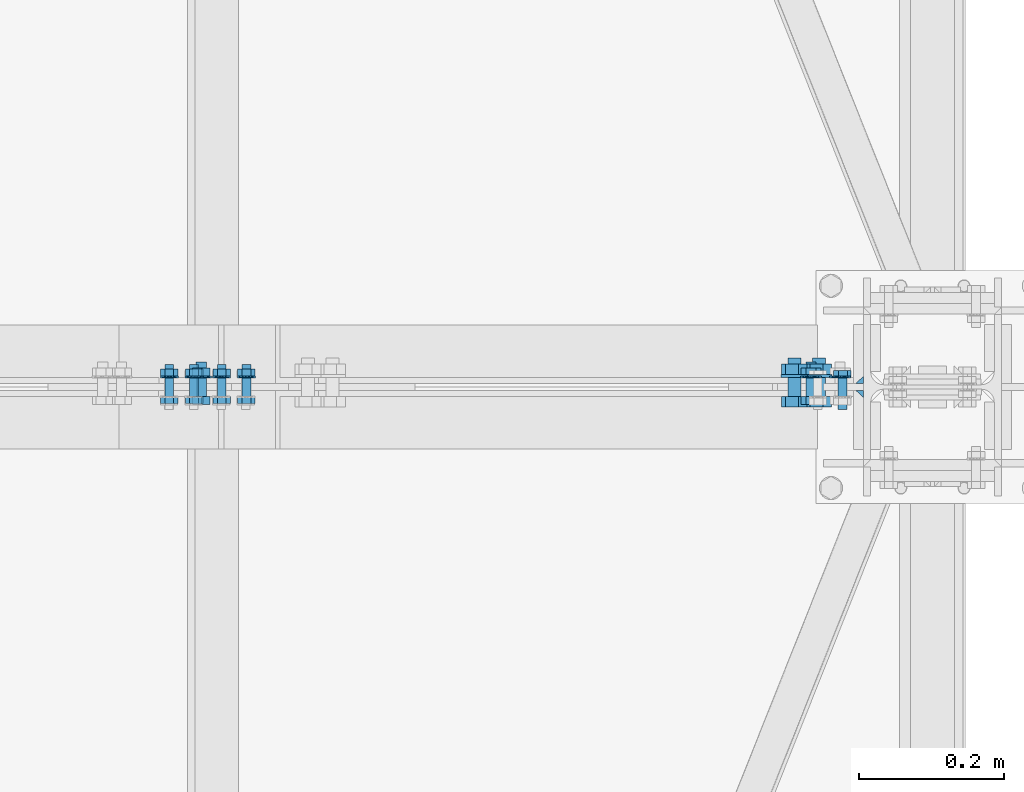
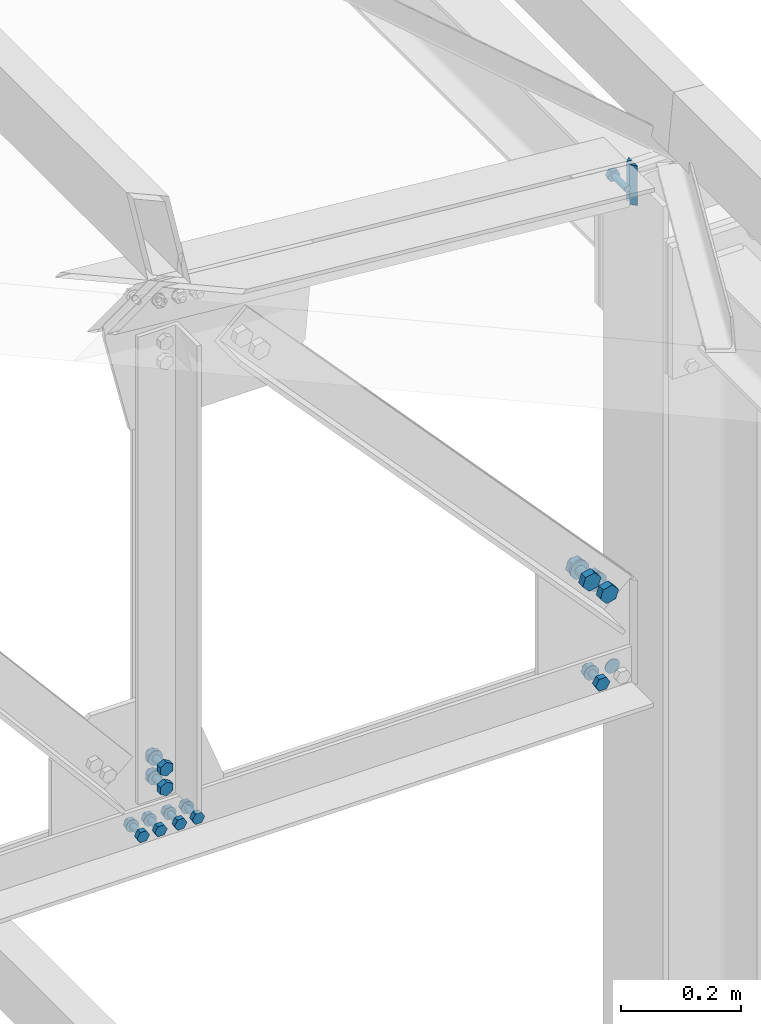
# One storey, part 111 of 251: 39 mechanical fasteners, 2 fasteners.
"""IFC4 building model written with IfcOpenShell, lengths in metres."""

from ifc_helpers import new_model, si_unit, frame, origin_with_axes, place, context, project, spatial, polyline, outline, extrude, type_object, element, save


model = new_model("IFC4")

# Units and contexts
model_context = context("Model", 3, precision=1e-05, world=origin_with_axes())
ifc_project = project(units=[si_unit("LENGTHUNIT", "METRE"), si_unit("AREAUNIT", "SQUARE_METRE"), si_unit("VOLUMEUNIT", "CUBIC_METRE"), si_unit("MASSUNIT", "GRAM", prefix="KILO"), si_unit("TIMEUNIT", "SECOND"), si_unit("PLANEANGLEUNIT", "RADIAN"), si_unit("SOLIDANGLEUNIT", "STERADIAN"), si_unit("THERMODYNAMICTEMPERATUREUNIT", "DEGREE_CELSIUS")], contexts=[model_context])

# Site, building, storey
placement_1 = place(None, origin_with_axes())
site = spatial("IfcSite", under=ifc_project, at=placement_1, Name="Italia", CompositionType="ELEMENT")
building = spatial("IfcBuilding", under=site, at=placement_1, Name="Deposito", CompositionType="ELEMENT")
storey = spatial("IfcBuildingStorey", under=building, at=placement_1, Name="Storey 0", CompositionType="ELEMENT", Elevation=0.0)

# Mechanical fasteners
mechanical_fastener_type_1 = type_object("IfcMechanicalFastenerType", Name="Reticolare 3", PredefinedType="BOLT")
placement_2 = place(placement_1, origin_with_axes())
mechanical_fastener_1_placement = place(placement_2, origin_with_axes())
element("IfcMechanicalFastener", 1, at=mechanical_fastener_1_placement, inside=storey, type_object=mechanical_fastener_type_1, Name="Reticolare 3", NominalDiameter=0.028, context=model_context, shape_type="SweptSolid", body=[
    extrude(outline(polyline([(0.0, 0.0), (-0.000476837, -0.00362349), (-0.00187492, -0.00699997), (-0.0041008, -0.00989962), (-0.00699997, -0.0121245), (-0.010376, -0.0135231), (-0.0139999, -0.0139999), (-0.0176239, -0.0135231), (-0.0209999, -0.0121245), (-0.0238991, -0.00989962), (-0.026125, -0.00699997), (-0.027523, -0.00362349), (-0.0279999, 0.0), (-0.027523, 0.00362349), (-0.026125, 0.00699997), (-0.0238991, 0.00989962), (-0.0209999, 0.0121245), (-0.0176239, 0.0135231), (-0.0139999, 0.0139999), (-0.010376, 0.0135231), (-0.00699997, 0.0121245), (-0.0041008, 0.00989962), (-0.00187492, 0.00699997), (-0.000476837, 0.00362349), (0.0, 0.0)])), frame((19.887, 5.015, 5.009), z_axis=(0.0, -1.0, 0.0), x_axis=(1.0, 0.0, 0.0)), (0.0, 0.0, 1.0), 0.00199986),
])
mechanical_fastener_type_2 = type_object("IfcMechanicalFastenerType", Name="Reticolare 3", PredefinedType="BOLT")
mechanical_fastener_2_placement = place(placement_2, origin_with_axes())
element("IfcMechanicalFastener", 2, at=mechanical_fastener_2_placement, inside=storey, type_object=mechanical_fastener_type_2, Name="Reticolare 3", NominalDiameter=0.0139997, context=model_context, shape_type="SweptSolid", body=[
    extrude(outline(polyline([(0.0, 0.0), (-0.0139999, 0.0), (-0.0209999, 0.0121241), (-0.0139999, 0.0242486), (0.0, 0.0242486), (0.00699997, 0.0121241), (0.0, 0.0)])), frame((19.84, 4.987, 4.99688), z_axis=(0.0, -1.0, 0.0), x_axis=(1.0, 0.0, 0.0)), (0.0, 0.0, 1.0), 0.0112),
])
mechanical_fastener_type_3 = type_object("IfcMechanicalFastenerType", Name="Reticolare 3", PredefinedType="BOLT")
mechanical_fastener_3_placement = place(placement_2, origin_with_axes())
element("IfcMechanicalFastener", 3, at=mechanical_fastener_3_placement, inside=storey, type_object=mechanical_fastener_type_3, Name="Reticolare 3", NominalDiameter=0.014, context=model_context, shape_type="SweptSolid", body=[
    extrude(outline(polyline([(0.0, 0.0), (-0.000238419, -0.0018115), (-0.000938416, -0.00349998), (-0.0020504, -0.00494957), (-0.00349998, -0.00606203), (-0.00518799, -0.00676155), (-0.00699997, -0.00699997), (-0.00881195, -0.00676155), (-0.0105, -0.00606203), (-0.0119495, -0.00494957), (-0.0130615, -0.00349998), (-0.0137615, -0.0018115), (-0.0139999, 0.0), (-0.0137615, 0.0018115), (-0.0130615, 0.00349998), (-0.0119495, 0.00494957), (-0.0105, 0.00606203), (-0.00881195, 0.00676155), (-0.00699997, 0.00699997), (-0.00518799, 0.00676155), (-0.00349998, 0.00606203), (-0.0020504, 0.00494957), (-0.000938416, 0.00349998), (-0.000238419, 0.0018115), (0.0, 0.0)])), frame((19.84, 5.034, 5.009), z_axis=(0.0, -1.0, 0.0), x_axis=(1.0, 0.0, 0.0)), (0.0, 0.0, 1.0), 0.0469999),
])
mechanical_fastener_type_4 = type_object("IfcMechanicalFastenerType", Name="Reticolare 3", PredefinedType="BOLT")
mechanical_fastener_4_placement = place(placement_2, origin_with_axes())
element("IfcMechanicalFastener", 4, at=mechanical_fastener_4_placement, inside=storey, type_object=mechanical_fastener_type_4, Name="Reticolare 3", NominalDiameter=0.0139997, context=model_context, shape_type="SweptSolid", body=[
    extrude(outline(polyline([(0.0, 0.0), (-0.0139999, 0.0), (-0.0209999, 0.0121241), (-0.0139999, 0.0242486), (0.0, 0.0242486), (0.00699997, 0.0121241), (0.0, 0.0)])), frame((19.84, 5.0262, 4.99688), z_axis=(0.0, -1.0, 0.0), x_axis=(1.0, 0.0, 0.0)), (0.0, 0.0, 1.0), 0.0112),
])
mechanical_fastener_type_5 = type_object("IfcMechanicalFastenerType", Name="Reticolare 3", PredefinedType="BOLT")
mechanical_fastener_5_placement = place(placement_2, origin_with_axes())
element("IfcMechanicalFastener", 5, at=mechanical_fastener_5_placement, inside=storey, type_object=mechanical_fastener_type_5, Name="Reticolare 3", NominalDiameter=0.028, context=model_context, shape_type="SweptSolid", body=[
    extrude(outline(polyline([(0.0, 0.0), (-0.000476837, -0.00362349), (-0.00187492, -0.00699997), (-0.0041008, -0.00989962), (-0.00699997, -0.0121245), (-0.010376, -0.0135231), (-0.0139999, -0.0139999), (-0.0176239, -0.0135231), (-0.0209999, -0.0121245), (-0.0238991, -0.00989962), (-0.026125, -0.00699997), (-0.027523, -0.00362349), (-0.0279999, 0.0), (-0.027523, 0.00362349), (-0.026125, 0.00699997), (-0.0238991, 0.00989962), (-0.0209999, 0.0121245), (-0.0176239, 0.0135231), (-0.0139999, 0.0139999), (-0.010376, 0.0135231), (-0.00699997, 0.0121245), (-0.0041008, 0.00989962), (-0.00187492, 0.00699997), (-0.000476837, 0.00362349), (0.0, 0.0)])), frame((19.847, 5.015, 5.009), z_axis=(0.0, -1.0, 0.0), x_axis=(1.0, 0.0, 0.0)), (0.0, 0.0, 1.0), 0.00199986),
])
mechanical_fastener_type_6 = type_object("IfcMechanicalFastenerType", Name="Reticolare 3", PredefinedType="BOLT")
mechanical_fastener_6_placement = place(placement_2, origin_with_axes())
element("IfcMechanicalFastener", 6, at=mechanical_fastener_6_placement, inside=storey, type_object=mechanical_fastener_type_6, Name="Reticolare 3", NominalDiameter=0.0179991, context=model_context, shape_type="SweptSolid", body=[
    extrude(outline(polyline([(0.0, 0.0), (-0.0121613, 0.0132709), (-0.0067482, 0.0304379), (0.0108242, 0.0343337), (0.0229855, 0.0210629), (0.0175724, 0.00389576), (0.0, 0.0)])), frame((19.8385, 4.987, 5.17241), z_axis=(0.0, -1.0, 0.0), x_axis=(1.0, 0.0, 0.0)), (0.0, 0.0, 1.0), 0.0144),
])
mechanical_fastener_type_7 = type_object("IfcMechanicalFastenerType", Name="Reticolare 3", PredefinedType="BOLT")
mechanical_fastener_7_placement = place(placement_2, origin_with_axes())
element("IfcMechanicalFastener", 7, at=mechanical_fastener_7_placement, inside=storey, type_object=mechanical_fastener_type_7, Name="Reticolare 3", NominalDiameter=0.018, context=model_context, shape_type="SweptSolid", body=[
    extrude(outline(polyline([(0.0, 0.0), (-0.000307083, -0.00232935), (-0.00120735, -0.00449991), (-0.00263596, -0.00636387), (-0.00450134, -0.00779438), (-0.00667191, -0.00869322), (-0.00900078, -0.00899982), (-0.0113297, -0.00869322), (-0.0135002, -0.00779438), (-0.0153656, -0.00636387), (-0.0167942, -0.00449991), (-0.0176945, -0.00232935), (-0.0180016, 0.0), (-0.0176945, 0.00232935), (-0.0167942, 0.00449991), (-0.0153656, 0.00636387), (-0.0135002, 0.00779438), (-0.0113297, 0.00869322), (-0.00900078, 0.00899982), (-0.00667191, 0.00869322), (-0.00450134, 0.00779438), (-0.00263596, 0.00636387), (-0.00120735, 0.00449991), (-0.000307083, 0.00232935), (0.0, 0.0)])), frame((19.8529, 5.04, 5.18958), z_axis=(0.0, -1.0, 0.0), x_axis=(1.0, 0.0, 0.0)), (0.0, 0.0, 1.0), 0.053),
])
mechanical_fastener_type_8 = type_object("IfcMechanicalFastenerType", Name="Reticolare 3", PredefinedType="BOLT")
mechanical_fastener_8_placement = place(placement_2, origin_with_axes())
element("IfcMechanicalFastener", 8, at=mechanical_fastener_8_placement, inside=storey, type_object=mechanical_fastener_type_8, Name="Reticolare 3", NominalDiameter=0.0179991, context=model_context, shape_type="SweptSolid", body=[
    extrude(outline(polyline([(0.0, 0.0), (-0.0121613, 0.0132709), (-0.0067482, 0.0304379), (0.0108242, 0.0343337), (0.0229855, 0.0210629), (0.0175724, 0.00389576), (0.0, 0.0)])), frame((19.8385, 5.0314, 5.17241), z_axis=(0.0, -1.0, 0.0), x_axis=(1.0, 0.0, 0.0)), (0.0, 0.0, 1.0), 0.0144),
])
mechanical_fastener_type_9 = type_object("IfcMechanicalFastenerType", Name="Reticolare 3", PredefinedType="BOLT")
mechanical_fastener_9_placement = place(placement_2, origin_with_axes())
element("IfcMechanicalFastener", 9, at=mechanical_fastener_9_placement, inside=storey, type_object=mechanical_fastener_type_9, Name="Reticolare 3", NominalDiameter=0.036, context=model_context, shape_type="SweptSolid", body=[
    extrude(outline(polyline([(0.0, 0.0), (-0.000612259, -0.0046587), (-0.00241089, -0.00899982), (-0.00527191, -0.0127277), (-0.00899887, -0.0155883), (-0.01334, -0.0173864), (-0.0179996, -0.0180001), (-0.0226593, -0.0173864), (-0.0270004, -0.0155883), (-0.0307274, -0.0127277), (-0.0335884, -0.00899982), (-0.035387, -0.0046587), (-0.0359993, 0.0), (-0.035387, 0.0046587), (-0.0335884, 0.00899982), (-0.0307274, 0.0127277), (-0.0270004, 0.0155883), (-0.0226593, 0.0173864), (-0.0179996, 0.0180001), (-0.01334, 0.0173864), (-0.00899887, 0.0155883), (-0.00527191, 0.0127277), (-0.00241089, 0.00899982), (-0.000612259, 0.0046587), (0.0, 0.0)])), frame((19.8619, 5.017, 5.18958), z_axis=(0.0, -1.0, 0.0), x_axis=(1.0, 0.0, 0.0)), (0.0, 0.0, 1.0), 0.00400019),
])
mechanical_fastener_type_10 = type_object("IfcMechanicalFastenerType", Name="Reticolare 3", PredefinedType="BOLT")
mechanical_fastener_10_placement = place(placement_2, origin_with_axes())
element("IfcMechanicalFastener", 10, at=mechanical_fastener_10_placement, inside=storey, type_object=mechanical_fastener_type_10, Name="Reticolare 3", NominalDiameter=0.0179991, context=model_context, shape_type="SweptSolid", body=[
    extrude(outline(polyline([(0.0, 0.0), (-0.0121613, 0.0132709), (-0.0067482, 0.0304379), (0.0108242, 0.0343337), (0.0229855, 0.0210629), (0.0175724, 0.00389576), (0.0, 0.0)])), frame((19.8047, 4.987, 5.20928), z_axis=(0.0, -1.0, 0.0), x_axis=(1.0, 0.0, 0.0)), (0.0, 0.0, 1.0), 0.0144),
])
mechanical_fastener_type_11 = type_object("IfcMechanicalFastenerType", Name="Reticolare 3", PredefinedType="BOLT")
mechanical_fastener_11_placement = place(placement_2, origin_with_axes())
element("IfcMechanicalFastener", 11, at=mechanical_fastener_11_placement, inside=storey, type_object=mechanical_fastener_type_11, Name="Reticolare 3", NominalDiameter=0.018, context=model_context, shape_type="SweptSolid", body=[
    extrude(outline(polyline([(0.0, 0.0), (-0.000307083, -0.00232935), (-0.00120735, -0.00449991), (-0.00263596, -0.00636387), (-0.00450134, -0.00779438), (-0.00667191, -0.00869322), (-0.00900078, -0.00899982), (-0.0113297, -0.00869322), (-0.0135002, -0.00779438), (-0.0153656, -0.00636387), (-0.0167942, -0.00449991), (-0.0176945, -0.00232935), (-0.0180016, 0.0), (-0.0176945, 0.00232935), (-0.0167942, 0.00449991), (-0.0153656, 0.00636387), (-0.0135002, 0.00779438), (-0.0113297, 0.00869322), (-0.00900078, 0.00899982), (-0.00667191, 0.00869322), (-0.00450134, 0.00779438), (-0.00263596, 0.00636387), (-0.00120735, 0.00449991), (-0.000307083, 0.00232935), (0.0, 0.0)])), frame((19.8191, 5.04, 5.22645), z_axis=(0.0, -1.0, 0.0), x_axis=(1.0, 0.0, 0.0)), (0.0, 0.0, 1.0), 0.053),
])
mechanical_fastener_type_12 = type_object("IfcMechanicalFastenerType", Name="Reticolare 3", PredefinedType="BOLT")
mechanical_fastener_12_placement = place(placement_2, origin_with_axes())
element("IfcMechanicalFastener", 12, at=mechanical_fastener_12_placement, inside=storey, type_object=mechanical_fastener_type_12, Name="Reticolare 3", NominalDiameter=0.0179991, context=model_context, shape_type="SweptSolid", body=[
    extrude(outline(polyline([(0.0, 0.0), (-0.0121613, 0.0132709), (-0.0067482, 0.0304379), (0.0108242, 0.0343337), (0.0229855, 0.0210629), (0.0175724, 0.00389576), (0.0, 0.0)])), frame((19.8047, 5.0314, 5.20928), z_axis=(0.0, -1.0, 0.0), x_axis=(1.0, 0.0, 0.0)), (0.0, 0.0, 1.0), 0.0144),
])
mechanical_fastener_type_13 = type_object("IfcMechanicalFastenerType", Name="Reticolare 3", PredefinedType="BOLT")
mechanical_fastener_13_placement = place(placement_2, origin_with_axes())
element("IfcMechanicalFastener", 13, at=mechanical_fastener_13_placement, inside=storey, type_object=mechanical_fastener_type_13, Name="Reticolare 3", NominalDiameter=0.036, context=model_context, shape_type="SweptSolid", body=[
    extrude(outline(polyline([(0.0, 0.0), (-0.000612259, -0.0046587), (-0.00241089, -0.00899982), (-0.00527191, -0.0127277), (-0.00899887, -0.0155883), (-0.01334, -0.0173864), (-0.0179996, -0.0180001), (-0.0226593, -0.0173864), (-0.0270004, -0.0155883), (-0.0307274, -0.0127277), (-0.0335884, -0.00899982), (-0.035387, -0.0046587), (-0.0359993, 0.0), (-0.035387, 0.0046587), (-0.0335884, 0.00899982), (-0.0307274, 0.0127277), (-0.0270004, 0.0155883), (-0.0226593, 0.0173864), (-0.0179996, 0.0180001), (-0.01334, 0.0173864), (-0.00899887, 0.0155883), (-0.00527191, 0.0127277), (-0.00241089, 0.00899982), (-0.000612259, 0.0046587), (0.0, 0.0)])), frame((19.8281, 5.017, 5.22645), z_axis=(0.0, -1.0, 0.0), x_axis=(1.0, 0.0, 0.0)), (0.0, 0.0, 1.0), 0.00400019),
])
mechanical_fastener_type_14 = type_object("IfcMechanicalFastenerType", Name="Reticolare 3", PredefinedType="BOLT")
mechanical_fastener_14_placement = place(placement_2, origin_with_axes())
element("IfcMechanicalFastener", 14, at=mechanical_fastener_14_placement, inside=storey, type_object=mechanical_fastener_type_14, Name="Reticolare 3", NominalDiameter=0.0119991, context=model_context, shape_type="SweptSolid", body=[
    extrude(outline(polyline([(0.0, 0.0), (-0.0119991, 0.0), (-0.0179996, 0.0103922), (-0.0119991, 0.0207844), (0.0, 0.0207844), (0.00600052, 0.0103922), (0.0, 0.0)])), frame((18.9908, 4.987, 4.99661), z_axis=(0.0, -1.0, 0.0), x_axis=(1.0, 0.0, 0.0)), (0.0, 0.0, 1.0), 0.00960016),
])
mechanical_fastener_type_15 = type_object("IfcMechanicalFastenerType", Name="Reticolare 3", PredefinedType="BOLT")
mechanical_fastener_15_placement = place(placement_2, origin_with_axes())
element("IfcMechanicalFastener", 15, at=mechanical_fastener_15_placement, inside=storey, type_object=mechanical_fastener_type_15, Name="Reticolare 3", NominalDiameter=0.012, context=model_context, shape_type="SweptSolid", body=[
    extrude(outline(polyline([(0.0, 0.0), (-0.000204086, -0.00155306), (-0.000804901, -0.00299978), (-0.00175858, -0.00424242), (-0.00300026, -0.00519609), (-0.00444794, -0.00579548), (-0.00600052, -0.00600004), (-0.0075531, -0.00579548), (-0.00900078, -0.00519609), (-0.0102425, -0.00424242), (-0.0111961, -0.00299978), (-0.011797, -0.00155306), (-0.012001, 0.0), (-0.011797, 0.00155306), (-0.0111961, 0.00299978), (-0.0102425, 0.00424242), (-0.00900078, 0.00519609), (-0.0075531, 0.00579548), (-0.00600052, 0.00600004), (-0.00444794, 0.00579548), (-0.00300026, 0.00519609), (-0.00175858, 0.00424242), (-0.000804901, 0.00299978), (-0.000204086, 0.00155306), (0.0, 0.0)])), frame((18.9908, 5.031, 5.007), z_axis=(0.0, -1.0, 0.0), x_axis=(1.0, 0.0, 0.0)), (0.0, 0.0, 1.0), 0.0440001),
])
mechanical_fastener_type_16 = type_object("IfcMechanicalFastenerType", Name="Reticolare 3", PredefinedType="BOLT")
mechanical_fastener_16_placement = place(placement_2, origin_with_axes())
element("IfcMechanicalFastener", 16, at=mechanical_fastener_16_placement, inside=storey, type_object=mechanical_fastener_type_16, Name="Reticolare 3", NominalDiameter=0.0119991, context=model_context, shape_type="SweptSolid", body=[
    extrude(outline(polyline([(0.0, 0.0), (-0.0119991, 0.0), (-0.0179996, 0.0103922), (-0.0119991, 0.0207844), (0.0, 0.0207844), (0.00600052, 0.0103922), (0.0, 0.0)])), frame((18.9908, 5.0246, 4.99661), z_axis=(0.0, -1.0, 0.0), x_axis=(1.0, 0.0, 0.0)), (0.0, 0.0, 1.0), 0.00960016),
])
mechanical_fastener_type_17 = type_object("IfcMechanicalFastenerType", Name="Reticolare 3", PredefinedType="BOLT")
mechanical_fastener_17_placement = place(placement_2, origin_with_axes())
element("IfcMechanicalFastener", 17, at=mechanical_fastener_17_placement, inside=storey, type_object=mechanical_fastener_type_17, Name="Reticolare 3", NominalDiameter=0.024, context=model_context, shape_type="SweptSolid", body=[
    extrude(outline(polyline([(0.0, 0.0), (-0.000408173, -0.00310564), (-0.00160599, -0.00600004), (-0.00351334, -0.00848532), (-0.00599861, -0.0103922), (-0.00889397, -0.011591), (-0.0119991, -0.0120001), (-0.0151043, -0.011591), (-0.0179996, -0.0103922), (-0.0204849, -0.00848532), (-0.0223923, -0.00600004), (-0.0235901, -0.00310564), (-0.0239983, 0.0), (-0.0235901, 0.00310564), (-0.0223923, 0.00600004), (-0.0204849, 0.00848532), (-0.0179996, 0.0103922), (-0.0151043, 0.011591), (-0.0119991, 0.0120001), (-0.00889397, 0.011591), (-0.00599861, 0.0103922), (-0.00351334, 0.00848532), (-0.00160599, 0.00600004), (-0.000408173, 0.00310564), (0.0, 0.0)])), frame((18.9968, 5.015, 5.007), z_axis=(0.0, -1.0, 0.0), x_axis=(1.0, 0.0, 0.0)), (0.0, 0.0, 1.0), 0.00199986),
])
mechanical_fastener_type_18 = type_object("IfcMechanicalFastenerType", Name="Reticolare 3", PredefinedType="BOLT")
mechanical_fastener_18_placement = place(placement_2, origin_with_axes())
element("IfcMechanicalFastener", 18, at=mechanical_fastener_18_placement, inside=storey, type_object=mechanical_fastener_type_18, Name="Reticolare 3", NominalDiameter=0.0119991, context=model_context, shape_type="SweptSolid", body=[
    extrude(outline(polyline([(0.0, 0.0), (-0.0119991, 0.0), (-0.0179996, 0.0103922), (-0.0119991, 0.0207844), (0.0, 0.0207844), (0.00600052, 0.0103922), (0.0, 0.0)])), frame((18.9568, 4.987, 4.99661), z_axis=(0.0, -1.0, 0.0), x_axis=(1.0, 0.0, 0.0)), (0.0, 0.0, 1.0), 0.00960016),
])
mechanical_fastener_type_19 = type_object("IfcMechanicalFastenerType", Name="Reticolare 3", PredefinedType="BOLT")
mechanical_fastener_19_placement = place(placement_2, origin_with_axes())
element("IfcMechanicalFastener", 19, at=mechanical_fastener_19_placement, inside=storey, type_object=mechanical_fastener_type_19, Name="Reticolare 3", NominalDiameter=0.012, context=model_context, shape_type="SweptSolid", body=[
    extrude(outline(polyline([(0.0, 0.0), (-0.000204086, -0.00155306), (-0.000804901, -0.00299978), (-0.00175858, -0.00424242), (-0.00300026, -0.00519609), (-0.00444794, -0.00579548), (-0.00600052, -0.00600004), (-0.0075531, -0.00579548), (-0.00900078, -0.00519609), (-0.0102425, -0.00424242), (-0.0111961, -0.00299978), (-0.011797, -0.00155306), (-0.012001, 0.0), (-0.011797, 0.00155306), (-0.0111961, 0.00299978), (-0.0102425, 0.00424242), (-0.00900078, 0.00519609), (-0.0075531, 0.00579548), (-0.00600052, 0.00600004), (-0.00444794, 0.00579548), (-0.00300026, 0.00519609), (-0.00175858, 0.00424242), (-0.000804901, 0.00299978), (-0.000204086, 0.00155306), (0.0, 0.0)])), frame((18.9568, 5.031, 5.007), z_axis=(0.0, -1.0, 0.0), x_axis=(1.0, 0.0, 0.0)), (0.0, 0.0, 1.0), 0.0440001),
])
mechanical_fastener_type_20 = type_object("IfcMechanicalFastenerType", Name="Reticolare 3", PredefinedType="BOLT")
mechanical_fastener_20_placement = place(placement_2, origin_with_axes())
element("IfcMechanicalFastener", 20, at=mechanical_fastener_20_placement, inside=storey, type_object=mechanical_fastener_type_20, Name="Reticolare 3", NominalDiameter=0.0119991, context=model_context, shape_type="SweptSolid", body=[
    extrude(outline(polyline([(0.0, 0.0), (-0.0119991, 0.0), (-0.0179996, 0.0103922), (-0.0119991, 0.0207844), (0.0, 0.0207844), (0.00600052, 0.0103922), (0.0, 0.0)])), frame((18.9568, 5.0246, 4.99661), z_axis=(0.0, -1.0, 0.0), x_axis=(1.0, 0.0, 0.0)), (0.0, 0.0, 1.0), 0.00960016),
])
mechanical_fastener_type_21 = type_object("IfcMechanicalFastenerType", Name="Reticolare 3", PredefinedType="BOLT")
mechanical_fastener_21_placement = place(placement_2, origin_with_axes())
element("IfcMechanicalFastener", 21, at=mechanical_fastener_21_placement, inside=storey, type_object=mechanical_fastener_type_21, Name="Reticolare 3", NominalDiameter=0.024, context=model_context, shape_type="SweptSolid", body=[
    extrude(outline(polyline([(0.0, 0.0), (-0.000408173, -0.00310564), (-0.00160599, -0.00600004), (-0.00351334, -0.00848532), (-0.00599861, -0.0103922), (-0.00889397, -0.011591), (-0.0119991, -0.0120001), (-0.0151043, -0.011591), (-0.0179996, -0.0103922), (-0.0204849, -0.00848532), (-0.0223923, -0.00600004), (-0.0235901, -0.00310564), (-0.0239983, 0.0), (-0.0235901, 0.00310564), (-0.0223923, 0.00600004), (-0.0204849, 0.00848532), (-0.0179996, 0.0103922), (-0.0151043, 0.011591), (-0.0119991, 0.0120001), (-0.00889397, 0.011591), (-0.00599861, 0.0103922), (-0.00351334, 0.00848532), (-0.00160599, 0.00600004), (-0.000408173, 0.00310564), (0.0, 0.0)])), frame((18.9628, 5.015, 5.007), z_axis=(0.0, -1.0, 0.0), x_axis=(1.0, 0.0, 0.0)), (0.0, 0.0, 1.0), 0.00199986),
])
mechanical_fastener_type_22 = type_object("IfcMechanicalFastenerType", Name="Reticolare 3", PredefinedType="BOLT")
mechanical_fastener_22_placement = place(placement_2, origin_with_axes())
element("IfcMechanicalFastener", 22, at=mechanical_fastener_22_placement, inside=storey, type_object=mechanical_fastener_type_22, Name="Reticolare 3", NominalDiameter=0.0119991, context=model_context, shape_type="SweptSolid", body=[
    extrude(outline(polyline([(0.0, 0.0), (-0.0119991, 0.0), (-0.0179996, 0.0103922), (-0.0119991, 0.0207844), (0.0, 0.0207844), (0.00600052, 0.0103922), (0.0, 0.0)])), frame((19.0288, 4.987, 4.99661), z_axis=(0.0, -1.0, 0.0), x_axis=(1.0, 0.0, 0.0)), (0.0, 0.0, 1.0), 0.00960016),
])
mechanical_fastener_type_23 = type_object("IfcMechanicalFastenerType", Name="Reticolare 3", PredefinedType="BOLT")
mechanical_fastener_23_placement = place(placement_2, origin_with_axes())
element("IfcMechanicalFastener", 23, at=mechanical_fastener_23_placement, inside=storey, type_object=mechanical_fastener_type_23, Name="Reticolare 3", NominalDiameter=0.012, context=model_context, shape_type="SweptSolid", body=[
    extrude(outline(polyline([(0.0, 0.0), (-0.000204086, -0.00155306), (-0.000804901, -0.00299978), (-0.00175858, -0.00424242), (-0.00300026, -0.00519609), (-0.00444794, -0.00579548), (-0.00600052, -0.00600004), (-0.0075531, -0.00579548), (-0.00900078, -0.00519609), (-0.0102425, -0.00424242), (-0.0111961, -0.00299978), (-0.011797, -0.00155306), (-0.012001, 0.0), (-0.011797, 0.00155306), (-0.0111961, 0.00299978), (-0.0102425, 0.00424242), (-0.00900078, 0.00519609), (-0.0075531, 0.00579548), (-0.00600052, 0.00600004), (-0.00444794, 0.00579548), (-0.00300026, 0.00519609), (-0.00175858, 0.00424242), (-0.000804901, 0.00299978), (-0.000204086, 0.00155306), (0.0, 0.0)])), frame((19.0288, 5.031, 5.007), z_axis=(0.0, -1.0, 0.0), x_axis=(1.0, 0.0, 0.0)), (0.0, 0.0, 1.0), 0.0440001),
])
mechanical_fastener_type_24 = type_object("IfcMechanicalFastenerType", Name="Reticolare 3", PredefinedType="BOLT")
mechanical_fastener_24_placement = place(placement_2, origin_with_axes())
element("IfcMechanicalFastener", 24, at=mechanical_fastener_24_placement, inside=storey, type_object=mechanical_fastener_type_24, Name="Reticolare 3", NominalDiameter=0.0119991, context=model_context, shape_type="SweptSolid", body=[
    extrude(outline(polyline([(0.0, 0.0), (-0.0119991, 0.0), (-0.0179996, 0.0103922), (-0.0119991, 0.0207844), (0.0, 0.0207844), (0.00600052, 0.0103922), (0.0, 0.0)])), frame((19.0288, 5.0246, 4.99661), z_axis=(0.0, -1.0, 0.0), x_axis=(1.0, 0.0, 0.0)), (0.0, 0.0, 1.0), 0.00960016),
])
mechanical_fastener_type_25 = type_object("IfcMechanicalFastenerType", Name="Reticolare 3", PredefinedType="BOLT")
mechanical_fastener_25_placement = place(placement_2, origin_with_axes())
element("IfcMechanicalFastener", 25, at=mechanical_fastener_25_placement, inside=storey, type_object=mechanical_fastener_type_25, Name="Reticolare 3", NominalDiameter=0.024, context=model_context, shape_type="SweptSolid", body=[
    extrude(outline(polyline([(0.0, 0.0), (-0.000408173, -0.00310564), (-0.00160599, -0.00600004), (-0.00351334, -0.00848532), (-0.00599861, -0.0103922), (-0.00889397, -0.011591), (-0.0119991, -0.0120001), (-0.0151043, -0.011591), (-0.0179996, -0.0103922), (-0.0204849, -0.00848532), (-0.0223923, -0.00600004), (-0.0235901, -0.00310564), (-0.0239983, 0.0), (-0.0235901, 0.00310564), (-0.0223923, 0.00600004), (-0.0204849, 0.00848532), (-0.0179996, 0.0103922), (-0.0151043, 0.011591), (-0.0119991, 0.0120001), (-0.00889397, 0.011591), (-0.00599861, 0.0103922), (-0.00351334, 0.00848532), (-0.00160599, 0.00600004), (-0.000408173, 0.00310564), (0.0, 0.0)])), frame((19.0348, 5.015, 5.007), z_axis=(0.0, -1.0, 0.0), x_axis=(1.0, 0.0, 0.0)), (0.0, 0.0, 1.0), 0.00199986),
])
mechanical_fastener_type_26 = type_object("IfcMechanicalFastenerType", Name="Reticolare 3", PredefinedType="BOLT")
mechanical_fastener_26_placement = place(placement_2, origin_with_axes())
element("IfcMechanicalFastener", 26, at=mechanical_fastener_26_placement, inside=storey, type_object=mechanical_fastener_type_26, Name="Reticolare 3", NominalDiameter=0.0119991, context=model_context, shape_type="SweptSolid", body=[
    extrude(outline(polyline([(0.0, 0.0), (-0.0119991, 0.0), (-0.0179996, 0.0103922), (-0.0119991, 0.0207844), (0.0, 0.0207844), (0.00600052, 0.0103922), (0.0, 0.0)])), frame((19.0628, 4.987, 4.99661), z_axis=(0.0, -1.0, 0.0), x_axis=(1.0, 0.0, 0.0)), (0.0, 0.0, 1.0), 0.00960016),
])
mechanical_fastener_type_27 = type_object("IfcMechanicalFastenerType", Name="Reticolare 3", PredefinedType="BOLT")
mechanical_fastener_27_placement = place(placement_2, origin_with_axes())
element("IfcMechanicalFastener", 27, at=mechanical_fastener_27_placement, inside=storey, type_object=mechanical_fastener_type_27, Name="Reticolare 3", NominalDiameter=0.012, context=model_context, shape_type="SweptSolid", body=[
    extrude(outline(polyline([(0.0, 0.0), (-0.000204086, -0.00155306), (-0.000804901, -0.00299978), (-0.00175858, -0.00424242), (-0.00300026, -0.00519609), (-0.00444794, -0.00579548), (-0.00600052, -0.00600004), (-0.0075531, -0.00579548), (-0.00900078, -0.00519609), (-0.0102425, -0.00424242), (-0.0111961, -0.00299978), (-0.011797, -0.00155306), (-0.012001, 0.0), (-0.011797, 0.00155306), (-0.0111961, 0.00299978), (-0.0102425, 0.00424242), (-0.00900078, 0.00519609), (-0.0075531, 0.00579548), (-0.00600052, 0.00600004), (-0.00444794, 0.00579548), (-0.00300026, 0.00519609), (-0.00175858, 0.00424242), (-0.000804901, 0.00299978), (-0.000204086, 0.00155306), (0.0, 0.0)])), frame((19.0628, 5.031, 5.007), z_axis=(0.0, -1.0, 0.0), x_axis=(1.0, 0.0, 0.0)), (0.0, 0.0, 1.0), 0.0440001),
])
mechanical_fastener_type_28 = type_object("IfcMechanicalFastenerType", Name="Reticolare 3", PredefinedType="BOLT")
mechanical_fastener_28_placement = place(placement_2, origin_with_axes())
element("IfcMechanicalFastener", 28, at=mechanical_fastener_28_placement, inside=storey, type_object=mechanical_fastener_type_28, Name="Reticolare 3", NominalDiameter=0.0119991, context=model_context, shape_type="SweptSolid", body=[
    extrude(outline(polyline([(0.0, 0.0), (-0.0119991, 0.0), (-0.0179996, 0.0103922), (-0.0119991, 0.0207844), (0.0, 0.0207844), (0.00600052, 0.0103922), (0.0, 0.0)])), frame((19.0628, 5.0246, 4.99661), z_axis=(0.0, -1.0, 0.0), x_axis=(1.0, 0.0, 0.0)), (0.0, 0.0, 1.0), 0.00960016),
])
mechanical_fastener_type_29 = type_object("IfcMechanicalFastenerType", Name="Reticolare 3", PredefinedType="BOLT")
mechanical_fastener_29_placement = place(placement_2, origin_with_axes())
element("IfcMechanicalFastener", 29, at=mechanical_fastener_29_placement, inside=storey, type_object=mechanical_fastener_type_29, Name="Reticolare 3", NominalDiameter=0.024, context=model_context, shape_type="SweptSolid", body=[
    extrude(outline(polyline([(0.0, 0.0), (-0.000408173, -0.00310564), (-0.00160599, -0.00600004), (-0.00351334, -0.00848532), (-0.00599861, -0.0103922), (-0.00889397, -0.011591), (-0.0119991, -0.0120001), (-0.0151043, -0.011591), (-0.0179996, -0.0103922), (-0.0204849, -0.00848532), (-0.0223923, -0.00600004), (-0.0235901, -0.00310564), (-0.0239983, 0.0), (-0.0235901, 0.00310564), (-0.0223923, 0.00600004), (-0.0204849, 0.00848532), (-0.0179996, 0.0103922), (-0.0151043, 0.011591), (-0.0119991, 0.0120001), (-0.00889397, 0.011591), (-0.00599861, 0.0103922), (-0.00351334, 0.00848532), (-0.00160599, 0.00600004), (-0.000408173, 0.00310564), (0.0, 0.0)])), frame((19.0688, 5.015, 5.007), z_axis=(0.0, -1.0, 0.0), x_axis=(1.0, 0.0, 0.0)), (0.0, 0.0, 1.0), 0.00199986),
])
mechanical_fastener_type_30 = type_object("IfcMechanicalFastenerType", Name="Reticolare 3", PredefinedType="BOLT")
mechanical_fastener_30_placement = place(placement_2, origin_with_axes())
element("IfcMechanicalFastener", 30, at=mechanical_fastener_30_placement, inside=storey, type_object=mechanical_fastener_type_30, Name="Reticolare 3", NominalDiameter=0.0139989, context=model_context, shape_type="SweptSolid", body=[
    extrude(outline(polyline([(0.0, 0.0), (0.0, -0.0139999), (-0.012125, -0.0209999), (-0.0242481, -0.0139999), (-0.0242481, 0.0), (-0.012125, 0.00699997), (0.0, 0.0)])), frame((19.0069, 4.987, 5.09653), z_axis=(0.0, -1.0, 0.0), x_axis=(1.0, 0.0, 0.0)), (0.0, 0.0, 1.0), 0.0112),
])
mechanical_fastener_type_31 = type_object("IfcMechanicalFastenerType", Name="Reticolare 3", PredefinedType="BOLT")
mechanical_fastener_31_placement = place(placement_2, origin_with_axes())
element("IfcMechanicalFastener", 31, at=mechanical_fastener_31_placement, inside=storey, type_object=mechanical_fastener_type_31, Name="Reticolare 3", NominalDiameter=0.014, context=model_context, shape_type="SweptSolid", body=[
    extrude(outline(polyline([(0.0, 0.0), (-0.000238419, -0.0018115), (-0.000938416, -0.00349998), (-0.0020504, -0.00494957), (-0.00349998, -0.00606203), (-0.00518799, -0.00676155), (-0.00699997, -0.00699997), (-0.00881195, -0.00676155), (-0.0105, -0.00606203), (-0.0119495, -0.00494957), (-0.0130615, -0.00349998), (-0.0137615, -0.0018115), (-0.0139999, 0.0), (-0.0137615, 0.0018115), (-0.0130615, 0.00349998), (-0.0119495, 0.00494957), (-0.0105, 0.00606203), (-0.00881195, 0.00676155), (-0.00699997, 0.00699997), (-0.00518799, 0.00676155), (-0.00349998, 0.00606203), (-0.0020504, 0.00494957), (-0.000938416, 0.00349998), (-0.000238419, 0.0018115), (0.0, 0.0)])), frame((19.0018, 5.034, 5.08953), z_axis=(0.0, -1.0, 0.0), x_axis=(1.0, 0.0, 0.0)), (0.0, 0.0, 1.0), 0.0469999),
])
mechanical_fastener_type_32 = type_object("IfcMechanicalFastenerType", Name="Reticolare 3", PredefinedType="BOLT")
mechanical_fastener_32_placement = place(placement_2, origin_with_axes())
element("IfcMechanicalFastener", 32, at=mechanical_fastener_32_placement, inside=storey, type_object=mechanical_fastener_type_32, Name="Reticolare 3", NominalDiameter=0.0139989, context=model_context, shape_type="SweptSolid", body=[
    extrude(outline(polyline([(0.0, 0.0), (0.0, -0.0139999), (-0.012125, -0.0209999), (-0.0242481, -0.0139999), (-0.0242481, 0.0), (-0.012125, 0.00699997), (0.0, 0.0)])), frame((19.0069, 5.0262, 5.09653), z_axis=(0.0, -1.0, 0.0), x_axis=(1.0, 0.0, 0.0)), (0.0, 0.0, 1.0), 0.0112),
])
mechanical_fastener_type_33 = type_object("IfcMechanicalFastenerType", Name="Reticolare 3", PredefinedType="BOLT")
mechanical_fastener_33_placement = place(placement_2, origin_with_axes())
element("IfcMechanicalFastener", 33, at=mechanical_fastener_33_placement, inside=storey, type_object=mechanical_fastener_type_33, Name="Reticolare 3", NominalDiameter=0.028, context=model_context, shape_type="SweptSolid", body=[
    extrude(outline(polyline([(0.0, 0.0), (-0.000476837, -0.00362349), (-0.00187492, -0.00699997), (-0.0041008, -0.00989962), (-0.00699997, -0.0121245), (-0.010376, -0.0135231), (-0.0139999, -0.0139999), (-0.0176239, -0.0135231), (-0.0209999, -0.0121245), (-0.0238991, -0.00989962), (-0.026125, -0.00699997), (-0.027523, -0.00362349), (-0.0279999, 0.0), (-0.027523, 0.00362349), (-0.026125, 0.00699997), (-0.0238991, 0.00989962), (-0.0209999, 0.0121245), (-0.0176239, 0.0135231), (-0.0139999, 0.0139999), (-0.010376, 0.0135231), (-0.00699997, 0.0121245), (-0.0041008, 0.00989962), (-0.00187492, 0.00699997), (-0.000476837, 0.00362349), (0.0, 0.0)])), frame((19.0088, 5.015, 5.08953), z_axis=(0.0, -1.0, 0.0), x_axis=(1.0, 0.0, 0.0)), (0.0, 0.0, 1.0), 0.00199986),
])
mechanical_fastener_type_34 = type_object("IfcMechanicalFastenerType", Name="Reticolare 3", PredefinedType="BOLT")
mechanical_fastener_34_placement = place(placement_2, origin_with_axes())
element("IfcMechanicalFastener", 34, at=mechanical_fastener_34_placement, inside=storey, type_object=mechanical_fastener_type_34, Name="Reticolare 3", NominalDiameter=0.0139989, context=model_context, shape_type="SweptSolid", body=[
    extrude(outline(polyline([(0.0, 0.0), (0.0, -0.0139999), (-0.012125, -0.0209999), (-0.0242481, -0.0139999), (-0.0242481, 0.0), (-0.012125, 0.00700045), (0.0, 0.0)])), frame((19.0069, 4.987, 5.13653), z_axis=(0.0, -1.0, 0.0), x_axis=(1.0, 0.0, 0.0)), (0.0, 0.0, 1.0), 0.0112),
])
mechanical_fastener_type_35 = type_object("IfcMechanicalFastenerType", Name="Reticolare 3", PredefinedType="BOLT")
mechanical_fastener_35_placement = place(placement_2, origin_with_axes())
element("IfcMechanicalFastener", 35, at=mechanical_fastener_35_placement, inside=storey, type_object=mechanical_fastener_type_35, Name="Reticolare 3", NominalDiameter=0.014, context=model_context, shape_type="SweptSolid", body=[
    extrude(outline(polyline([(0.0, 0.0), (-0.000238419, -0.0018115), (-0.000938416, -0.00349998), (-0.0020504, -0.00494957), (-0.00349998, -0.00606203), (-0.00518799, -0.00676155), (-0.00699997, -0.00699997), (-0.00881195, -0.00676155), (-0.0105, -0.00606203), (-0.0119495, -0.00494957), (-0.0130615, -0.00349998), (-0.0137615, -0.0018115), (-0.0139999, 0.0), (-0.0137615, 0.0018115), (-0.0130615, 0.00349998), (-0.0119495, 0.00494957), (-0.0105, 0.00606203), (-0.00881195, 0.00676155), (-0.00699997, 0.00699997), (-0.00518799, 0.00676155), (-0.00349998, 0.00606203), (-0.0020504, 0.00494957), (-0.000938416, 0.00349998), (-0.000238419, 0.0018115), (0.0, 0.0)])), frame((19.0018, 5.034, 5.12953), z_axis=(0.0, -1.0, 0.0), x_axis=(1.0, 0.0, 0.0)), (0.0, 0.0, 1.0), 0.0469999),
])
mechanical_fastener_type_36 = type_object("IfcMechanicalFastenerType", Name="Reticolare 3", PredefinedType="BOLT")
mechanical_fastener_36_placement = place(placement_2, origin_with_axes())
element("IfcMechanicalFastener", 36, at=mechanical_fastener_36_placement, inside=storey, type_object=mechanical_fastener_type_36, Name="Reticolare 3", NominalDiameter=0.0139989, context=model_context, shape_type="SweptSolid", body=[
    extrude(outline(polyline([(0.0, 0.0), (0.0, -0.0139999), (-0.012125, -0.0209999), (-0.0242481, -0.0139999), (-0.0242481, 0.0), (-0.012125, 0.00700045), (0.0, 0.0)])), frame((19.0069, 5.0262, 5.13653), z_axis=(0.0, -1.0, 0.0), x_axis=(1.0, 0.0, 0.0)), (0.0, 0.0, 1.0), 0.0112),
])
mechanical_fastener_type_37 = type_object("IfcMechanicalFastenerType", Name="Reticolare 3", PredefinedType="BOLT")
mechanical_fastener_37_placement = place(placement_2, origin_with_axes())
element("IfcMechanicalFastener", 37, at=mechanical_fastener_37_placement, inside=storey, type_object=mechanical_fastener_type_37, Name="Reticolare 3", NominalDiameter=0.028, context=model_context, shape_type="SweptSolid", body=[
    extrude(outline(polyline([(0.0, 0.0), (-0.000476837, -0.00362349), (-0.00187492, -0.00699997), (-0.0041008, -0.00989962), (-0.00699997, -0.0121245), (-0.010376, -0.0135231), (-0.0139999, -0.0139999), (-0.0176239, -0.0135231), (-0.0209999, -0.0121245), (-0.0238991, -0.00989962), (-0.026125, -0.00699997), (-0.027523, -0.00362349), (-0.0279999, 0.0), (-0.027523, 0.00362349), (-0.026125, 0.00699997), (-0.0238991, 0.00989962), (-0.0209999, 0.0121245), (-0.0176239, 0.0135231), (-0.0139999, 0.0139999), (-0.010376, 0.0135231), (-0.00699997, 0.0121245), (-0.0041008, 0.00989962), (-0.00187492, 0.00699997), (-0.000476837, 0.00362349), (0.0, 0.0)])), frame((19.0088, 5.015, 5.12953), z_axis=(0.0, -1.0, 0.0), x_axis=(1.0, 0.0, 0.0)), (0.0, 0.0, 1.0), 0.00199986),
])

# Fasteners
fastener_type_1 = type_object("IfcFastenerType", Name="Reticolare 3", PredefinedType="WELD")
fastener_1_placement = place(placement_2, origin_with_axes())
element("IfcFastener", 38, at=fastener_1_placement, inside=storey, type_object=fastener_type_1, Name="Reticolare 3", context=model_context, shape_type="SweptSolid", body=[
    extrude(outline(polyline([(0.0, 0.0), (-0.00986814, -0.0101738), (-0.00986814, 0.0), (0.0, 0.0)])), frame((19.9051, 5.01482, 6.03096), z_axis=(0.0, 0.0, -1.0), x_axis=(0.0, 1.0, 0.0)), (0.0, 0.0, 1.0), 0.0804057),
])
fastener_type_2 = type_object("IfcFastenerType", Name="Reticolare 3", PredefinedType="WELD")
fastener_2_placement = place(placement_2, origin_with_axes())
element("IfcFastener", 39, at=fastener_2_placement, inside=storey, type_object=fastener_type_2, Name="Reticolare 3", context=model_context, shape_type="SweptSolid", body=[
    extrude(outline(polyline([(0.0, 0.0), (0.00986814, 0.0101738), (0.00986814, 0.0), (0.0, 0.0)])), frame((19.9051, 4.98518, 5.95056), z_axis=(0.0, 0.0, 1.0), x_axis=(0.0, 1.0, 0.0)), (0.0, 0.0, 1.0), 0.0804057),
])

# Mechanical fasteners
mechanical_fastener_type_38 = type_object("IfcMechanicalFastenerType", Name="Reticolare 3", PredefinedType="BOLT")
mechanical_fastener_38_placement = place(placement_2, origin_with_axes())
element("IfcMechanicalFastener", 40, at=mechanical_fastener_38_placement, inside=storey, type_object=mechanical_fastener_type_38, Name="Reticolare 3", NominalDiameter=0.011999, context=model_context, shape_type="SweptSolid", body=[
    extrude(outline(polyline([(0.0, 0.0), (0.0119534, 0.00104618), (0.018837, -0.00878382), (0.0137653, -0.0196595), (0.00181198, -0.0207052), (-0.00507164, -0.0108757), (0.0, 0.0)])), frame((19.8831, 5.013, 6.01363), z_axis=(0.0, 1.0, 0.0), x_axis=(-1.0, 0.0, 0.0)), (0.0, 0.0, 1.0), 0.00960016),
])
mechanical_fastener_type_39 = type_object("IfcMechanicalFastenerType", Name="Reticolare 3", PredefinedType="BOLT")
mechanical_fastener_39_placement = place(placement_2, origin_with_axes())
element("IfcMechanicalFastener", 41, at=mechanical_fastener_39_placement, inside=storey, type_object=mechanical_fastener_type_39, Name="Reticolare 3", NominalDiameter=0.012, context=model_context, shape_type="SweptSolid", body=[
    extrude(outline(polyline([(0.0, 0.0), (-0.000204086, -0.00155306), (-0.000804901, -0.00299978), (-0.00175858, -0.00424242), (-0.00300026, -0.00519609), (-0.00444794, -0.00579548), (-0.00600052, -0.00600004), (-0.0075531, -0.00579548), (-0.00900078, -0.00519609), (-0.0102425, -0.00424242), (-0.0111961, -0.00299978), (-0.011797, -0.00155306), (-0.012001, 0.0), (-0.011797, 0.00155306), (-0.0111961, 0.00299978), (-0.0102425, 0.00424242), (-0.00900078, 0.00519609), (-0.0075531, 0.00579548), (-0.00600052, 0.00600004), (-0.00444794, 0.00579548), (-0.00300026, 0.00519609), (-0.00175858, 0.00424242), (-0.000804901, 0.00299978), (-0.000204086, 0.00155306), (0.0, 0.0)])), frame((19.8702, 4.969, 6.0038), z_axis=(0.0, 1.0, 0.0), x_axis=(-1.0, 0.0, 0.0)), (0.0, 0.0, 1.0), 0.0440001),
])

save(model, "model.ifc")
